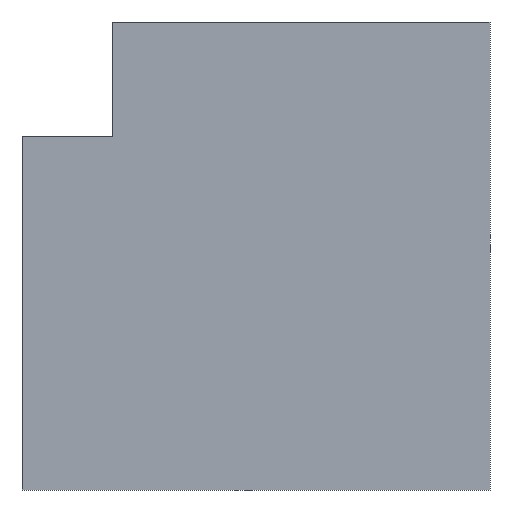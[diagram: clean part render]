
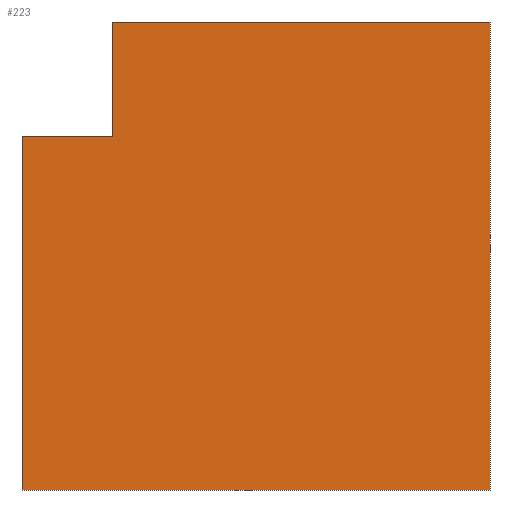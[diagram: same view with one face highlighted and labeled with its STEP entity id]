
A CAD part, front view. The second image highlights one B-rep face of the part: STEP entity #223.
In plain terms, the highlighted planar face has unit normal (0, -1, 0).
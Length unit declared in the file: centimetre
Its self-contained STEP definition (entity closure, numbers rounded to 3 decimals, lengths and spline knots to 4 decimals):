
#15 = CARTESIAN_POINT ( 'NONE',  ( 0., 0., 1000. ) ) ;
#26 = LINE ( 'NONE', #138, #270 ) ;
#35 = DIRECTION ( 'NONE',  ( 1., 0., 0. ) ) ;
#45 = CARTESIAN_POINT ( 'NONE',  ( 194.3041, 0., 755.0054 ) ) ;
#72 = VECTOR ( 'NONE', #35, 100. ) ;
#83 = LINE ( 'NONE', #505, #72 ) ;
#89 = EDGE_CURVE ( 'NONE', #265, #131, #378, .T. ) ;
#102 = VERTEX_POINT ( 'NONE', #476 ) ;
#123 = AXIS2_PLACEMENT_3D ( 'NONE', #195, #442, #275 ) ;
#129 = LINE ( 'NONE', #550, #404 ) ;
#131 = VERTEX_POINT ( 'NONE', #583 ) ;
#138 = CARTESIAN_POINT ( 'NONE',  ( 1000., 0., 1000. ) ) ;
#162 = DIRECTION ( 'NONE',  ( 1., 0., 0. ) ) ;
#164 = CARTESIAN_POINT ( 'NONE',  ( 0., 0., 1000. ) ) ;
#180 = EDGE_CURVE ( 'NONE', #665, #624, #480, .T. ) ;
#181 = CARTESIAN_POINT ( 'NONE',  ( 194.3041, 0., 755.0054 ) ) ;
#192 = ORIENTED_EDGE ( 'NONE', *, *, #599, .F. ) ;
#195 = CARTESIAN_POINT ( 'NONE',  ( 0., 0., 1000. ) ) ;
#210 = EDGE_CURVE ( 'NONE', #665, #241, #129, .T. ) ;
#216 = DIRECTION ( 'NONE',  ( 0., 0., -1. ) ) ;
#220 = EDGE_CURVE ( 'NONE', #624, #102, #83, .T. ) ;
#223 = ADVANCED_FACE ( 'NONE', ( #231 ), #514, .F. ) ;
#224 = DIRECTION ( 'NONE',  ( 0., 0., -1. ) ) ;
#231 = FACE_OUTER_BOUND ( 'NONE', #592, .T. ) ;
#241 = VERTEX_POINT ( 'NONE', #181 ) ;
#265 = VERTEX_POINT ( 'NONE', #437 ) ;
#270 = VECTOR ( 'NONE', #224, 100. ) ;
#275 = DIRECTION ( 'NONE',  ( 0., 0., 1. ) ) ;
#279 = DIRECTION ( 'NONE',  ( 1., 0., 0. ) ) ;
#298 = CARTESIAN_POINT ( 'NONE',  ( 0., 0., 755.0054 ) ) ;
#302 = ORIENTED_EDGE ( 'NONE', *, *, #318, .F. ) ;
#318 = EDGE_CURVE ( 'NONE', #241, #265, #341, .T. ) ;
#341 = LINE ( 'NONE', #45, #498 ) ;
#349 = ORIENTED_EDGE ( 'NONE', *, *, #180, .T. ) ;
#357 = ORIENTED_EDGE ( 'NONE', *, *, #89, .F. ) ;
#378 = LINE ( 'NONE', #164, #659 ) ;
#400 = ORIENTED_EDGE ( 'NONE', *, *, #210, .F. ) ;
#404 = VECTOR ( 'NONE', #279, 100. ) ;
#437 = CARTESIAN_POINT ( 'NONE',  ( 194.3041, 0., 1000. ) ) ;
#442 = DIRECTION ( 'NONE',  ( 0., 1., 0. ) ) ;
#476 = CARTESIAN_POINT ( 'NONE',  ( 1000., 0., 0. ) ) ;
#480 = LINE ( 'NONE', #15, #540 ) ;
#498 = VECTOR ( 'NONE', #511, 100. ) ;
#505 = CARTESIAN_POINT ( 'NONE',  ( 0., 0., 0. ) ) ;
#511 = DIRECTION ( 'NONE',  ( 0., 0., 1. ) ) ;
#512 = ORIENTED_EDGE ( 'NONE', *, *, #220, .T. ) ;
#514 = PLANE ( 'NONE',  #123 ) ;
#540 = VECTOR ( 'NONE', #216, 100. ) ;
#550 = CARTESIAN_POINT ( 'NONE',  ( 0., 0., 755.0054 ) ) ;
#583 = CARTESIAN_POINT ( 'NONE',  ( 1000., 0., 1000. ) ) ;
#592 = EDGE_LOOP ( 'NONE', ( #357, #302, #400, #349, #512, #192 ) ) ;
#599 = EDGE_CURVE ( 'NONE', #131, #102, #26, .T. ) ;
#606 = CARTESIAN_POINT ( 'NONE',  ( 0., 0., 0. ) ) ;
#624 = VERTEX_POINT ( 'NONE', #606 ) ;
#659 = VECTOR ( 'NONE', #162, 100. ) ;
#665 = VERTEX_POINT ( 'NONE', #298 ) ;
